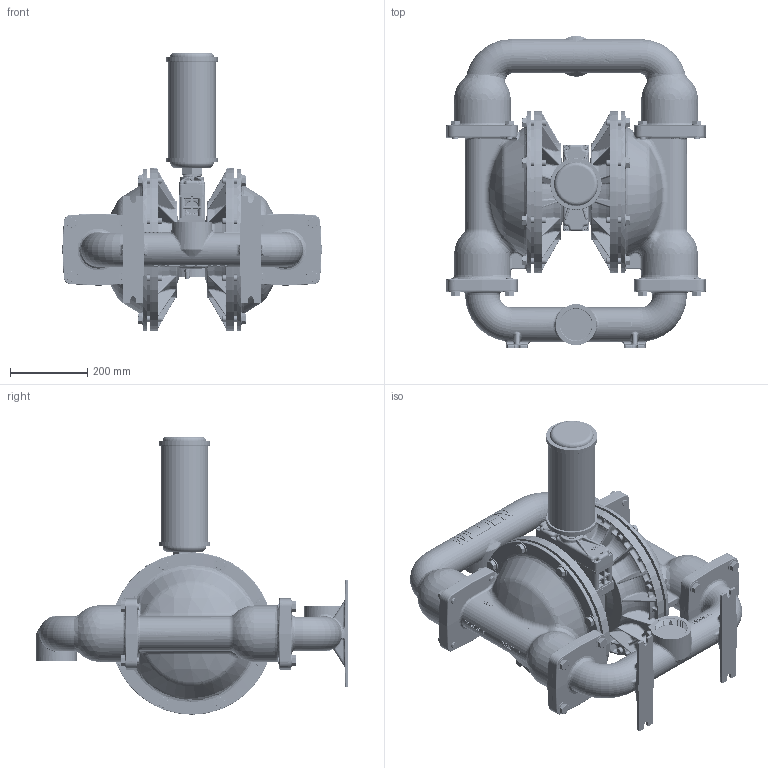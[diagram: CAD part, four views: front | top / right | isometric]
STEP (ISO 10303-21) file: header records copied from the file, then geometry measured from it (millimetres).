
FILE_DESCRIPTION (( 'STEP AP203' ), '1' );
FILE_NAME ('PS1520_ADV_DI solid.STEP', '2022-05-25T10:38:36', ( '' ), ( '' ), 'SwSTEP 2.0', 'SolidWorks 2019', '' );
FILE_SCHEMA (( 'CONFIG_CONTROL_DESIGN' ));
Length unit declared in the file: inch
Products named in the file (1): PS1520_ADV_DI solid
Bounding box: 672.77 x 809.94 x 721.03 mm (x, y, z)
Volume: 55289586.8 mm3; surface area: 2459489.4 mm2
Topology: 1 solids, 1 shells, 13207 faces, 33281 edges, 20516 vertices
Faces by surface type: plane 6747, bspline 2824, cylinder 1284, torus 1017, cone 805, sphere 530
Entity records: 769836 total; most frequent: CARTESIAN_POINT 476297, ORIENTED_EDGE 66490, DIRECTION 53517, EDGE_CURVE 33245, VERTEX_POINT 20508, AXIS2_PLACEMENT_3D 18124, LINE 17269, VECTOR 17269
